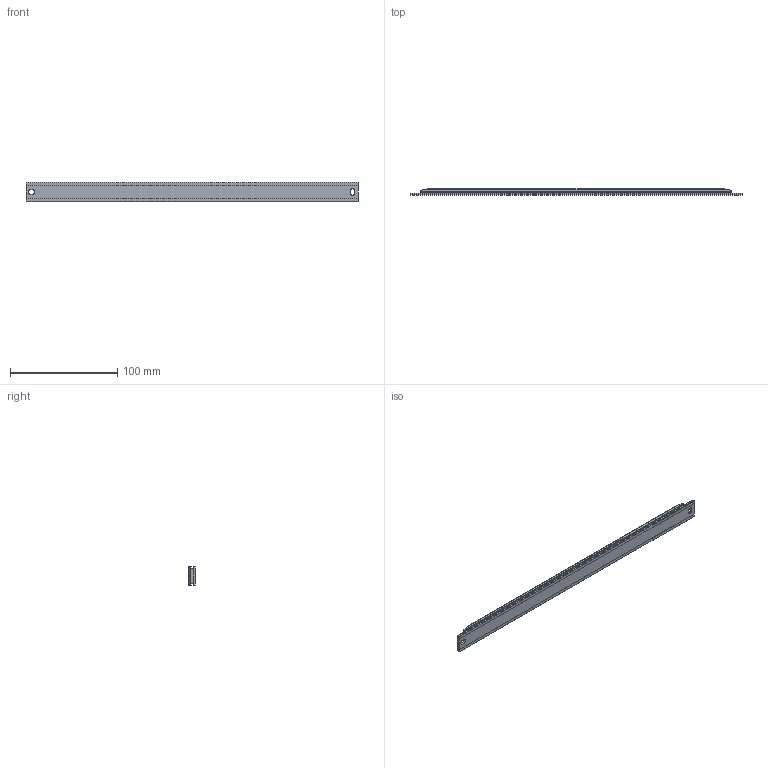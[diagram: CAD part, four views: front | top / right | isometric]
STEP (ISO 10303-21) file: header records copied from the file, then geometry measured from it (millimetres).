
FILE_DESCRIPTION (( 'STEP AP214' ), '1' );
FILE_NAME ('HLMScale.ScaleLength310.STEP', '2023-02-07T05:55:34', ( '' ), ( '' ), 'SwSTEP 2.0', 'SolidWorks 2020', '' );
FILE_SCHEMA (( 'AUTOMOTIVE_DESIGN' ));
Length unit declared in the file: millimetre
Products named in the file (1): HLMScale.ScaleLength310
Bounding box: 310 x 6.08 x 18 mm (x, y, z)
Volume: 29996.3 mm3; surface area: 16959.5 mm2
Topology: 1 solids, 1 shells, 56 faces, 149 edges, 98 vertices
Faces by surface type: plane 31, cylinder 25
Entity records: 1857 total; most frequent: CARTESIAN_POINT 412, ORIENTED_EDGE 298, DIRECTION 285, EDGE_CURVE 149, LINE 103, VECTOR 103, VERTEX_POINT 98, AXIS2_PLACEMENT_3D 91
